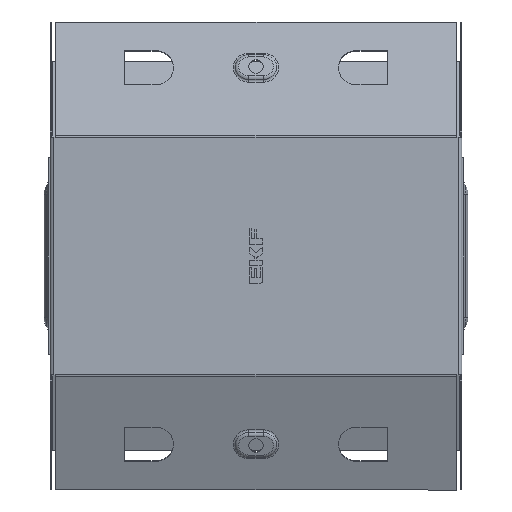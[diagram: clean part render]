
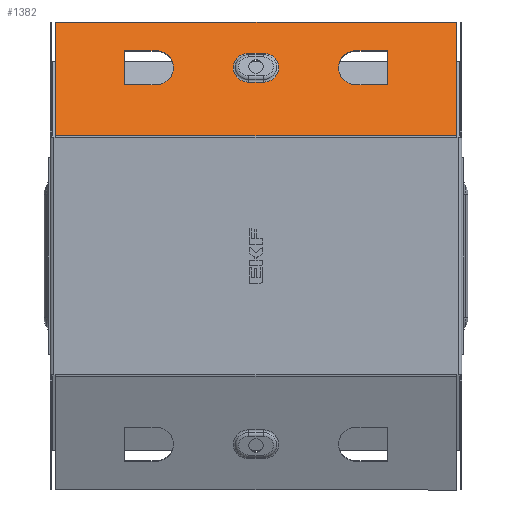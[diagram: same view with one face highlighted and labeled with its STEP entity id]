
A CAD part, front view. The second image highlights one B-rep face of the part: STEP entity #1382.
In plain terms, the highlighted planar face has unit normal (0, -0.924, 0.383).
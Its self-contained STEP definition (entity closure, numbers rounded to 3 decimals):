
#40 = FACE_OUTER_BOUND ( 'NONE', #13189, .T. ) ;
#122 = CARTESIAN_POINT ( 'NONE',  ( -49., -33.545, 99.783 ) ) ;
#167 = VERTEX_POINT ( 'NONE', #10268 ) ;
#191 = DIRECTION ( 'NONE',  ( -1., 0., 0. ) ) ;
#218 = DIRECTION ( 'NONE',  ( -1., 0., 0. ) ) ;
#267 = CARTESIAN_POINT ( 'NONE',  ( 97.299, -50.663, 58.456 ) ) ;
#523 = CARTESIAN_POINT ( 'NONE',  ( 64., -33.545, 99.783 ) ) ;
#547 = DIRECTION ( 'NONE',  ( 0., 0.924, -0.383 ) ) ;
#573 = DIRECTION ( 'NONE',  ( -1., 0., 0. ) ) ;
#756 = LINE ( 'NONE', #8970, #10487 ) ;
#763 = DIRECTION ( 'NONE',  ( 0., 0.383, 0.924 ) ) ;
#848 = CARTESIAN_POINT ( 'NONE',  ( -64., -33.545, 99.783 ) ) ;
#1270 = LINE ( 'NONE', #12227, #12743 ) ;
#1293 = CARTESIAN_POINT ( 'NONE',  ( 3.5, -39.897, 84.448 ) ) ;
#1342 = DIRECTION ( 'NONE',  ( 0., 0.383, 0.924 ) ) ;
#1382 = ADVANCED_FACE ( 'NONE', ( #8603, #9937, #5766, #40 ), #10373, .F. ) ;
#1490 = DIRECTION ( 'NONE',  ( 0., -0.383, -0.924 ) ) ;
#1543 = CARTESIAN_POINT ( 'NONE',  ( 97.299, -27.805, 113.641 ) ) ;
#1558 = ORIENTED_EDGE ( 'NONE', *, *, #13098, .T. ) ;
#1636 = LINE ( 'NONE', #1293, #12079 ) ;
#1743 = ORIENTED_EDGE ( 'NONE', *, *, #10183, .T. ) ;
#1853 = ORIENTED_EDGE ( 'NONE', *, *, #6140, .T. ) ;
#1938 = DIRECTION ( 'NONE',  ( 0., 0.924, -0.383 ) ) ;
#2300 = VECTOR ( 'NONE', #8015, 1000. ) ;
#2453 = EDGE_CURVE ( 'NONE', #10222, #8538, #9990, .T. ) ;
#2551 = EDGE_CURVE ( 'NONE', #10222, #8546, #1270, .T. ) ;
#2611 = CARTESIAN_POINT ( 'NONE',  ( 49., -33.545, 99.783 ) ) ;
#3061 = AXIS2_PLACEMENT_3D ( 'NONE', #12074, #6710, #4252 ) ;
#3409 = EDGE_LOOP ( 'NONE', ( #1743, #6379, #6108, #4370 ) ) ;
#3471 = VECTOR ( 'NONE', #573, 1000. ) ;
#3588 = EDGE_CURVE ( 'NONE', #10388, #13902, #13942, .T. ) ;
#3686 = VECTOR ( 'NONE', #6475, 1000. ) ;
#3702 = LINE ( 'NONE', #2611, #8564 ) ;
#3799 = EDGE_LOOP ( 'NONE', ( #9026, #8255, #11333, #10827 ) ) ;
#3802 = VECTOR ( 'NONE', #218, 1000. ) ;
#3912 = CARTESIAN_POINT ( 'NONE',  ( 49., -40.433, 83.153 ) ) ;
#3984 = CARTESIAN_POINT ( 'NONE',  ( 3.5, -39.897, 84.448 ) ) ;
#4093 = CARTESIAN_POINT ( 'NONE',  ( -3.5, -34.081, 98.488 ) ) ;
#4097 = CARTESIAN_POINT ( 'NONE',  ( 3.5, -34.081, 98.488 ) ) ;
#4185 = EDGE_CURVE ( 'NONE', #11531, #167, #11543, .T. ) ;
#4248 = VECTOR ( 'NONE', #1490, 1000. ) ;
#4252 = DIRECTION ( 'NONE',  ( 0., 0.383, 0.924 ) ) ;
#4332 = AXIS2_PLACEMENT_3D ( 'NONE', #5595, #4477, #1342 ) ;
#4370 = ORIENTED_EDGE ( 'NONE', *, *, #4864, .T. ) ;
#4455 = ORIENTED_EDGE ( 'NONE', *, *, #10906, .T. ) ;
#4477 = DIRECTION ( 'NONE',  ( 0., 0.924, -0.383 ) ) ;
#4582 = DIRECTION ( 'NONE',  ( 1., 0., 0. ) ) ;
#4628 = DIRECTION ( 'NONE',  ( 1., 0., 0. ) ) ;
#4759 = DIRECTION ( 'NONE',  ( -1., 0., 0. ) ) ;
#4864 = EDGE_CURVE ( 'NONE', #7127, #6635, #7801, .T. ) ;
#4871 = DIRECTION ( 'NONE',  ( 0., -0.383, -0.924 ) ) ;
#5021 = CARTESIAN_POINT ( 'NONE',  ( -97.299, -27.805, 113.641 ) ) ;
#5025 = DIRECTION ( 'NONE',  ( 0., 0.383, 0.924 ) ) ;
#5193 = EDGE_CURVE ( 'NONE', #167, #10388, #756, .T. ) ;
#5473 = VERTEX_POINT ( 'NONE', #3984 ) ;
#5595 = CARTESIAN_POINT ( 'NONE',  ( 49., -36.989, 91.468 ) ) ;
#5644 = CARTESIAN_POINT ( 'NONE',  ( 98.2, -50.663, 58.456 ) ) ;
#5766 = FACE_BOUND ( 'NONE', #9277, .T. ) ;
#5877 = EDGE_CURVE ( 'NONE', #12584, #9264, #7445, .T. ) ;
#6108 = ORIENTED_EDGE ( 'NONE', *, *, #9185, .T. ) ;
#6140 = EDGE_CURVE ( 'NONE', #8546, #9820, #8162, .T. ) ;
#6379 = ORIENTED_EDGE ( 'NONE', *, *, #11620, .T. ) ;
#6475 = DIRECTION ( 'NONE',  ( 0., 0.383, 0.924 ) ) ;
#6635 = VERTEX_POINT ( 'NONE', #7054 ) ;
#6710 = DIRECTION ( 'NONE',  ( 0., 0.924, -0.383 ) ) ;
#6738 = VECTOR ( 'NONE', #11292, 1000. ) ;
#7054 = CARTESIAN_POINT ( 'NONE',  ( -64., -40.433, 83.153 ) ) ;
#7127 = VERTEX_POINT ( 'NONE', #7399 ) ;
#7150 = CARTESIAN_POINT ( 'NONE',  ( 98.2, -27.805, 113.641 ) ) ;
#7399 = CARTESIAN_POINT ( 'NONE',  ( -49., -40.433, 83.153 ) ) ;
#7445 = CIRCLE ( 'NONE', #10345, 7.598 ) ;
#7783 = DIRECTION ( 'NONE',  ( -1., 0., 0. ) ) ;
#7801 = LINE ( 'NONE', #11843, #3802 ) ;
#7937 = VERTEX_POINT ( 'NONE', #8966 ) ;
#8015 = DIRECTION ( 'NONE',  ( 0., -0.383, -0.924 ) ) ;
#8061 = ORIENTED_EDGE ( 'NONE', *, *, #5877, .T. ) ;
#8079 = ORIENTED_EDGE ( 'NONE', *, *, #10233, .T. ) ;
#8162 = LINE ( 'NONE', #7150, #3471 ) ;
#8255 = ORIENTED_EDGE ( 'NONE', *, *, #3588, .T. ) ;
#8489 = ORIENTED_EDGE ( 'NONE', *, *, #12374, .T. ) ;
#8538 = VERTEX_POINT ( 'NONE', #12330 ) ;
#8546 = VERTEX_POINT ( 'NONE', #1543 ) ;
#8549 = LINE ( 'NONE', #12462, #3686 ) ;
#8564 = VECTOR ( 'NONE', #4628, 1000. ) ;
#8603 = FACE_BOUND ( 'NONE', #3799, .T. ) ;
#8966 = CARTESIAN_POINT ( 'NONE',  ( -49., -33.545, 99.783 ) ) ;
#8970 = CARTESIAN_POINT ( 'NONE',  ( 49., -40.433, 83.153 ) ) ;
#9026 = ORIENTED_EDGE ( 'NONE', *, *, #5193, .T. ) ;
#9165 = VECTOR ( 'NONE', #7783, 1000. ) ;
#9185 = EDGE_CURVE ( 'NONE', #7937, #7127, #9939, .T. ) ;
#9218 = AXIS2_PLACEMENT_3D ( 'NONE', #13719, #1938, #763 ) ;
#9264 = VERTEX_POINT ( 'NONE', #4093 ) ;
#9274 = CARTESIAN_POINT ( 'NONE',  ( -3.5, -36.989, 91.468 ) ) ;
#9277 = EDGE_LOOP ( 'NONE', ( #1558, #8079, #4455, #8061 ) ) ;
#9699 = EDGE_CURVE ( 'NONE', #13902, #11531, #3702, .T. ) ;
#9820 = VERTEX_POINT ( 'NONE', #5021 ) ;
#9937 = FACE_BOUND ( 'NONE', #3409, .T. ) ;
#9939 = CIRCLE ( 'NONE', #10319, 9. ) ;
#9990 = LINE ( 'NONE', #5644, #9165 ) ;
#10183 = EDGE_CURVE ( 'NONE', #6635, #11451, #8549, .T. ) ;
#10201 = CARTESIAN_POINT ( 'NONE',  ( 3.5, -34.081, 98.488 ) ) ;
#10222 = VERTEX_POINT ( 'NONE', #267 ) ;
#10233 = EDGE_CURVE ( 'NONE', #11124, #5473, #12612, .T. ) ;
#10268 = CARTESIAN_POINT ( 'NONE',  ( 64., -40.433, 83.153 ) ) ;
#10319 = AXIS2_PLACEMENT_3D ( 'NONE', #12446, #547, #4871 ) ;
#10345 = AXIS2_PLACEMENT_3D ( 'NONE', #9274, #11364, #5025 ) ;
#10360 = LINE ( 'NONE', #122, #11398 ) ;
#10373 = PLANE ( 'NONE',  #9218 ) ;
#10388 = VERTEX_POINT ( 'NONE', #3912 ) ;
#10487 = VECTOR ( 'NONE', #4759, 1000. ) ;
#10827 = ORIENTED_EDGE ( 'NONE', *, *, #4185, .T. ) ;
#10906 = EDGE_CURVE ( 'NONE', #5473, #12584, #1636, .T. ) ;
#10941 = LINE ( 'NONE', #10942, #4248 ) ;
#10942 = CARTESIAN_POINT ( 'NONE',  ( -97.299, -50.8, 58.125 ) ) ;
#11012 = CARTESIAN_POINT ( 'NONE',  ( 64., -33.545, 99.783 ) ) ;
#11124 = VERTEX_POINT ( 'NONE', #4097 ) ;
#11292 = DIRECTION ( 'NONE',  ( 1., 0., 0. ) ) ;
#11333 = ORIENTED_EDGE ( 'NONE', *, *, #9699, .T. ) ;
#11364 = DIRECTION ( 'NONE',  ( 0., 0.924, -0.383 ) ) ;
#11398 = VECTOR ( 'NONE', #4582, 1000. ) ;
#11451 = VERTEX_POINT ( 'NONE', #848 ) ;
#11531 = VERTEX_POINT ( 'NONE', #11012 ) ;
#11543 = LINE ( 'NONE', #523, #2300 ) ;
#11620 = EDGE_CURVE ( 'NONE', #11451, #7937, #10360, .T. ) ;
#11625 = LINE ( 'NONE', #10201, #6738 ) ;
#11843 = CARTESIAN_POINT ( 'NONE',  ( -49., -40.433, 83.153 ) ) ;
#11963 = ORIENTED_EDGE ( 'NONE', *, *, #2453, .F. ) ;
#12074 = CARTESIAN_POINT ( 'NONE',  ( 3.5, -36.989, 91.468 ) ) ;
#12079 = VECTOR ( 'NONE', #191, 1000. ) ;
#12214 = ORIENTED_EDGE ( 'NONE', *, *, #2551, .T. ) ;
#12227 = CARTESIAN_POINT ( 'NONE',  ( 97.299, -50.864, 57.971 ) ) ;
#12330 = CARTESIAN_POINT ( 'NONE',  ( -97.299, -50.663, 58.456 ) ) ;
#12374 = EDGE_CURVE ( 'NONE', #9820, #8538, #10941, .T. ) ;
#12446 = CARTESIAN_POINT ( 'NONE',  ( -49., -36.989, 91.468 ) ) ;
#12462 = CARTESIAN_POINT ( 'NONE',  ( -64., -33.545, 99.783 ) ) ;
#12584 = VERTEX_POINT ( 'NONE', #12917 ) ;
#12612 = CIRCLE ( 'NONE', #3061, 7.598 ) ;
#12743 = VECTOR ( 'NONE', #13259, 1000. ) ;
#12917 = CARTESIAN_POINT ( 'NONE',  ( -3.5, -39.897, 84.448 ) ) ;
#13098 = EDGE_CURVE ( 'NONE', #9264, #11124, #11625, .T. ) ;
#13189 = EDGE_LOOP ( 'NONE', ( #8489, #11963, #12214, #1853 ) ) ;
#13259 = DIRECTION ( 'NONE',  ( 0., 0.383, 0.924 ) ) ;
#13719 = CARTESIAN_POINT ( 'NONE',  ( 98.2, -50.8, 58.125 ) ) ;
#13858 = CARTESIAN_POINT ( 'NONE',  ( 49., -33.545, 99.783 ) ) ;
#13902 = VERTEX_POINT ( 'NONE', #13858 ) ;
#13942 = CIRCLE ( 'NONE', #4332, 9. ) ;
